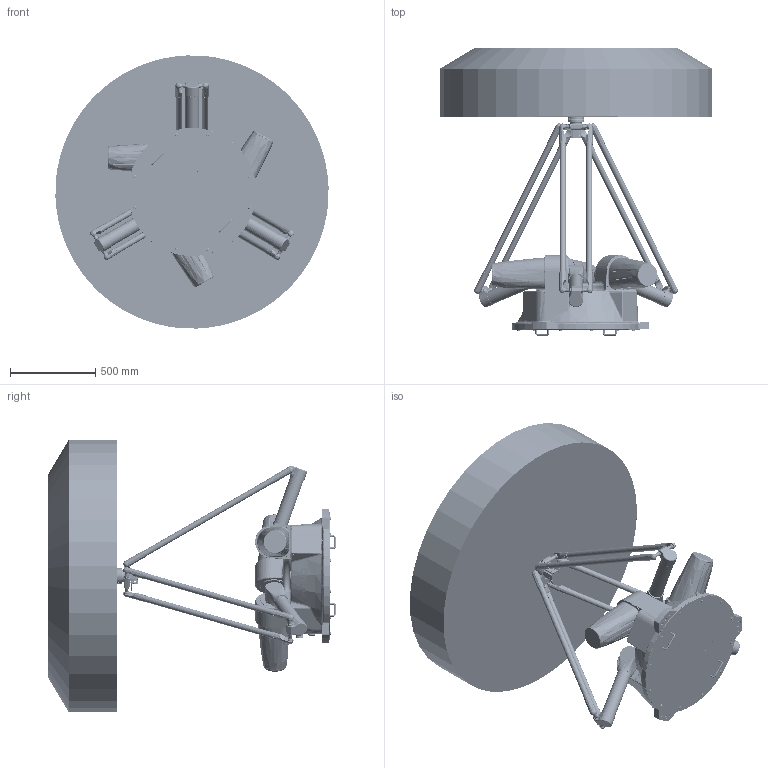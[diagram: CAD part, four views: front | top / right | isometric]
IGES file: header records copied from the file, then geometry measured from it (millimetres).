
Start section: SolidWorks IGES file using analytic representation for surfaces
Global section: file name: X:\03研发部\50-Robot\20-Delta\240-AP25X\10-Design\02-Mechanical\02-FDR 阶段资料\04-对外发布模型\AP25X-1600-1544外发模型\AP25X-1600-1544-T0-V3.0.1.IGS; native system: SolidWorks 2017; preprocessor: SolidWorks 2017; author: 1023; date: 250211.141644; units: millimetre
Bounding box: 1598.44 x 1682 x 1598.44 mm (x, y, z)
Surface area: 10593701.6 mm2 (no closed solid volume)
Topology: 0 solids, 0 shells, 8558 faces, 119738 edges, 119220 vertices
Faces by surface type: bspline 4809, revolution 3749
